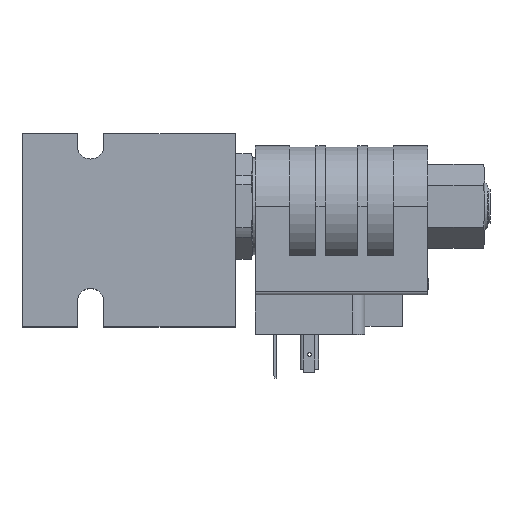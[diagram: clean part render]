
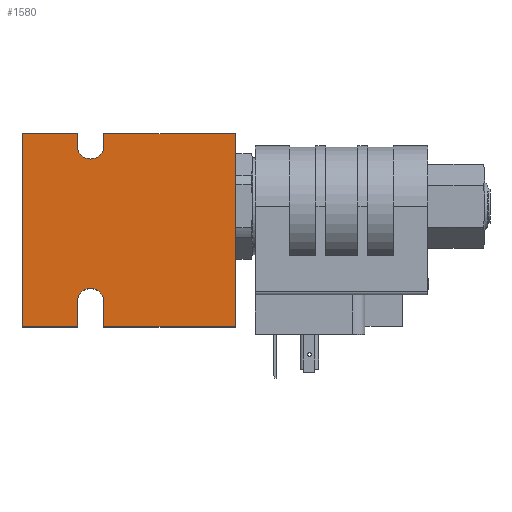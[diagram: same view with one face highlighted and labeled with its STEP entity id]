
A CAD part, top view. The second image highlights one B-rep face of the part: STEP entity #1580.
In plain terms, the highlighted planar face has unit normal (0, 0, 1).
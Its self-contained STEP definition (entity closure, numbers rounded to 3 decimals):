
#1580 = ADVANCED_FACE( '', ( #3109 ), #3110, .F. );
#3109 = FACE_OUTER_BOUND( '', #4678, .T. );
#3110 = PLANE( '', #4679 );
#4678 = EDGE_LOOP( '', ( #8032, #8033, #8034, #8035, #8036, #8037, #8038, #8039, #8040, #8041, #8042, #8043 ) );
#4679 = AXIS2_PLACEMENT_3D( '', #8044, #8045, #8046 );
#8032 = ORIENTED_EDGE( '', *, *, #10011, .T. );
#8033 = ORIENTED_EDGE( '', *, *, #10315, .F. );
#8034 = ORIENTED_EDGE( '', *, *, #10157, .F. );
#8035 = ORIENTED_EDGE( '', *, *, #8997, .F. );
#8036 = ORIENTED_EDGE( '', *, *, #9004, .F. );
#8037 = ORIENTED_EDGE( '', *, *, #9587, .F. );
#8038 = ORIENTED_EDGE( '', *, *, #10070, .F. );
#8039 = ORIENTED_EDGE( '', *, *, #10316, .F. );
#8040 = ORIENTED_EDGE( '', *, *, #9696, .F. );
#8041 = ORIENTED_EDGE( '', *, *, #10317, .F. );
#8042 = ORIENTED_EDGE( '', *, *, #9986, .T. );
#8043 = ORIENTED_EDGE( '', *, *, #9126, .T. );
#8044 = CARTESIAN_POINT( '', ( 0., 0., 38.1 ) );
#8045 = DIRECTION( '', ( 0., 0., -1. ) );
#8046 = DIRECTION( '', ( -1., 0., 0. ) );
#8997 = EDGE_CURVE( '', #10503, #10505, #10506, .T. );
#9004 = EDGE_CURVE( '', #10515, #10503, #10517, .T. );
#9126 = EDGE_CURVE( '', #10735, #10733, #10736, .T. );
#9587 = EDGE_CURVE( '', #11518, #10515, #11520, .T. );
#9696 = EDGE_CURVE( '', #11686, #11688, #11689, .T. );
#9986 = EDGE_CURVE( '', #12098, #10735, #12099, .T. );
#10011 = EDGE_CURVE( '', #10733, #12133, #12135, .T. );
#10070 = EDGE_CURVE( '', #12209, #11518, #12211, .T. );
#10157 = EDGE_CURVE( '', #10505, #12323, #12324, .T. );
#10315 = EDGE_CURVE( '', #12323, #12133, #12518, .T. );
#10316 = EDGE_CURVE( '', #11688, #12209, #12519, .T. );
#10317 = EDGE_CURVE( '', #12098, #11686, #12520, .T. );
#10503 = VERTEX_POINT( '', #12721 );
#10505 = VERTEX_POINT( '', #12724 );
#10506 = LINE( '', #12725, #12726 );
#10515 = VERTEX_POINT( '', #12738 );
#10517 = LINE( '', #12741, #12742 );
#10733 = VERTEX_POINT( '', #13093 );
#10735 = VERTEX_POINT( '', #13096 );
#10736 = CIRCLE( '', #13097, 3.5 );
#11518 = VERTEX_POINT( '', #14579 );
#11520 = CIRCLE( '', #14582, 3.5 );
#11686 = VERTEX_POINT( '', #14857 );
#11688 = VERTEX_POINT( '', #14860 );
#11689 = LINE( '', #14861, #14862 );
#12098 = VERTEX_POINT( '', #15648 );
#12099 = LINE( '', #15649, #15650 );
#12133 = VERTEX_POINT( '', #15700 );
#12135 = LINE( '', #15703, #15704 );
#12209 = VERTEX_POINT( '', #15818 );
#12211 = LINE( '', #15821, #15822 );
#12323 = VERTEX_POINT( '', #15977 );
#12324 = LINE( '', #15978, #15979 );
#12518 = LINE( '', #16284, #16285 );
#12519 = LINE( '', #16286, #16287 );
#12520 = LINE( '', #16288, #16289 );
#12721 = CARTESIAN_POINT( '', ( -13.5, -25.4, 38.1 ) );
#12724 = CARTESIAN_POINT( '', ( -28., -25.4, 38.1 ) );
#12725 = CARTESIAN_POINT( '', ( 28., -25.4, 38.1 ) );
#12726 = VECTOR( '', #16529, 1000. );
#12738 = CARTESIAN_POINT( '', ( -13.5, -18.8, 38.1 ) );
#12741 = CARTESIAN_POINT( '', ( -13.5, -18.8, 38.1 ) );
#12742 = VECTOR( '', #16537, 1000. );
#13093 = CARTESIAN_POINT( '', ( -13.5, 22.2, 38.1 ) );
#13096 = CARTESIAN_POINT( '', ( -6.5, 22.2, 38.1 ) );
#13097 = AXIS2_PLACEMENT_3D( '', #16654, #16655, #16656 );
#14579 = CARTESIAN_POINT( '', ( -6.5, -18.8, 38.1 ) );
#14582 = AXIS2_PLACEMENT_3D( '', #17169, #17170, #17171 );
#14857 = CARTESIAN_POINT( '', ( 28., 25.4, 38.1 ) );
#14860 = CARTESIAN_POINT( '', ( 28., -25.4, 38.1 ) );
#14861 = CARTESIAN_POINT( '', ( 28., 25.4, 38.1 ) );
#14862 = VECTOR( '', #17286, 1000. );
#15648 = CARTESIAN_POINT( '', ( -6.5, 25.4, 38.1 ) );
#15649 = CARTESIAN_POINT( '', ( -6.5, 22.2, 38.1 ) );
#15650 = VECTOR( '', #17543, 1000. );
#15700 = CARTESIAN_POINT( '', ( -13.5, 25.4, 38.1 ) );
#15703 = CARTESIAN_POINT( '', ( -13.5, 22.2, 38.1 ) );
#15704 = VECTOR( '', #17567, 1000. );
#15818 = CARTESIAN_POINT( '', ( -6.5, -25.4, 38.1 ) );
#15821 = CARTESIAN_POINT( '', ( -6.5, -18.8, 38.1 ) );
#15822 = VECTOR( '', #17613, 1000. );
#15977 = CARTESIAN_POINT( '', ( -28., 25.4, 38.1 ) );
#15978 = CARTESIAN_POINT( '', ( -28., -25.4, 38.1 ) );
#15979 = VECTOR( '', #17688, 1000. );
#16284 = CARTESIAN_POINT( '', ( -28., 25.4, 38.1 ) );
#16285 = VECTOR( '', #17803, 1000. );
#16286 = CARTESIAN_POINT( '', ( 28., -25.4, 38.1 ) );
#16287 = VECTOR( '', #17804, 1000. );
#16288 = CARTESIAN_POINT( '', ( -28., 25.4, 38.1 ) );
#16289 = VECTOR( '', #17805, 1000. );
#16529 = DIRECTION( '', ( -1., 0., 0. ) );
#16537 = DIRECTION( '', ( 0., -1., 0. ) );
#16654 = CARTESIAN_POINT( '', ( -10., 22.2, 38.1 ) );
#16655 = DIRECTION( '', ( 0., 0., -1. ) );
#16656 = DIRECTION( '', ( 1., 0., 0. ) );
#17169 = CARTESIAN_POINT( '', ( -10., -18.8, 38.1 ) );
#17170 = DIRECTION( '', ( 0., 0., 1. ) );
#17171 = DIRECTION( '', ( 1., 0., 0. ) );
#17286 = DIRECTION( '', ( 0., -1., 0. ) );
#17543 = DIRECTION( '', ( 0., -1., 0. ) );
#17567 = DIRECTION( '', ( 0., 1., 0. ) );
#17613 = DIRECTION( '', ( 0., 1., 0. ) );
#17688 = DIRECTION( '', ( 0., 1., 0. ) );
#17803 = DIRECTION( '', ( 1., 0., 0. ) );
#17804 = DIRECTION( '', ( -1., 0., 0. ) );
#17805 = DIRECTION( '', ( 1., 0., 0. ) );
